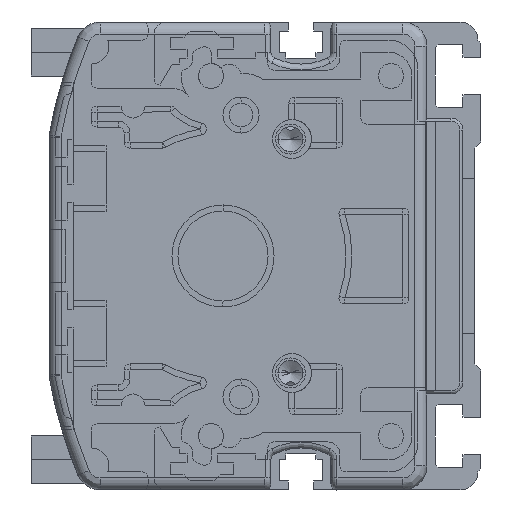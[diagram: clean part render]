
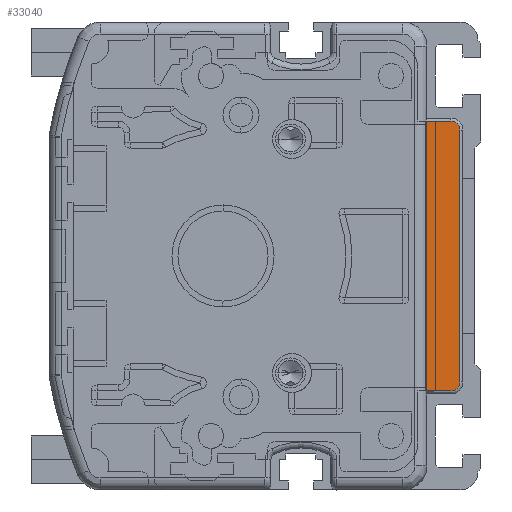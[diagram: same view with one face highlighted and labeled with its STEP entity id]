
A CAD part, left-side view. The second image highlights one B-rep face of the part: STEP entity #33040.
In plain terms, the highlighted planar face has unit normal (-1, 0, 0).
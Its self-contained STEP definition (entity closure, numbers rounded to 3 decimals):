
#27595=DIRECTION('',(0.,0.,-1.));
#27596=VECTOR('',#27595,45.);
#27597=CARTESIAN_POINT('',(-2.,10.268,22.5));
#27598=LINE('',#27597,#27596);
#27630=CARTESIAN_POINT('',(-2.,6.,21.));
#27631=DIRECTION('',(1.,0.,0.));
#27632=DIRECTION('',(0.,0.,1.));
#27633=AXIS2_PLACEMENT_3D('',#27630,#27631,#27632);
#27635=CARTESIAN_POINT('',(-2.,6.,-21.));
#27636=DIRECTION('',(1.,0.,0.));
#27637=DIRECTION('',(0.,-1.,0.));
#27638=AXIS2_PLACEMENT_3D('',#27635,#27636,#27637);
#27644=DIRECTION('',(0.,-1.,0.));
#27645=VECTOR('',#27644,4.268);
#27646=CARTESIAN_POINT('',(-2.,10.268,-22.5));
#27647=LINE('',#27646,#27645);
#28178=DIRECTION('',(0.,0.,1.));
#28179=VECTOR('',#28178,42.);
#28180=CARTESIAN_POINT('',(-2.,4.5,-21.));
#28181=LINE('',#28180,#28179);
#28201=DIRECTION('',(0.,1.,0.));
#28202=VECTOR('',#28201,4.268);
#28203=CARTESIAN_POINT('',(-2.,6.,22.5));
#28204=LINE('',#28203,#28202);
#31487=CARTESIAN_POINT('',(-2.,10.268,22.5));
#31488=CARTESIAN_POINT('',(-2.,10.268,-22.5));
#31489=VERTEX_POINT('',#31487);
#31490=VERTEX_POINT('',#31488);
#31500=CARTESIAN_POINT('',(-2.,6.,-22.5));
#31501=VERTEX_POINT('',#31500);
#31502=CARTESIAN_POINT('',(-2.,4.5,-21.));
#31503=VERTEX_POINT('',#31502);
#31504=CARTESIAN_POINT('',(-2.,4.5,21.));
#31505=VERTEX_POINT('',#31504);
#31506=CARTESIAN_POINT('',(-2.,6.,
22.5));
#31507=VERTEX_POINT('',#31506);
#33022=CARTESIAN_POINT('',(-2.,7.384,0.));
#33023=DIRECTION('',(1.,0.,0.));
#33024=DIRECTION('',(0.,0.,-1.));
#33025=AXIS2_PLACEMENT_3D('',#33022,#33023,#33024);
#33026=PLANE('',#33025);
#33028=ORIENTED_EDGE('',*,*,#33027,.F.);
#33029=ORIENTED_EDGE('',*,*,#33001,.F.);
#33031=ORIENTED_EDGE('',*,*,#33030,.F.);
#33033=ORIENTED_EDGE('',*,*,#33032,.T.);
#33035=ORIENTED_EDGE('',*,*,#33034,.F.);
#33037=ORIENTED_EDGE('',*,*,#33036,.T.);
#33038=EDGE_LOOP('',(#33028,#33029,#33031,#33033,#33035,#33037));
#33039=FACE_OUTER_BOUND('',#33038,.F.);
#33040=ADVANCED_FACE('',(#33039),#33026,.F.);
#27634=CIRCLE('',#27633,1.5);
#27639=CIRCLE('',#27638,1.5);
#33001=EDGE_CURVE('',#31489,#31490,#27598,.T.);
#33027=EDGE_CURVE('',#31490,#31501,#27647,.T.);
#33030=EDGE_CURVE('',#31507,#31489,#28204,.T.);
#33032=EDGE_CURVE('',#31507,#31505,#27634,.T.);
#33034=EDGE_CURVE('',#31503,#31505,#28181,.T.);
#33036=EDGE_CURVE('',#31503,#31501,#27639,.T.);
